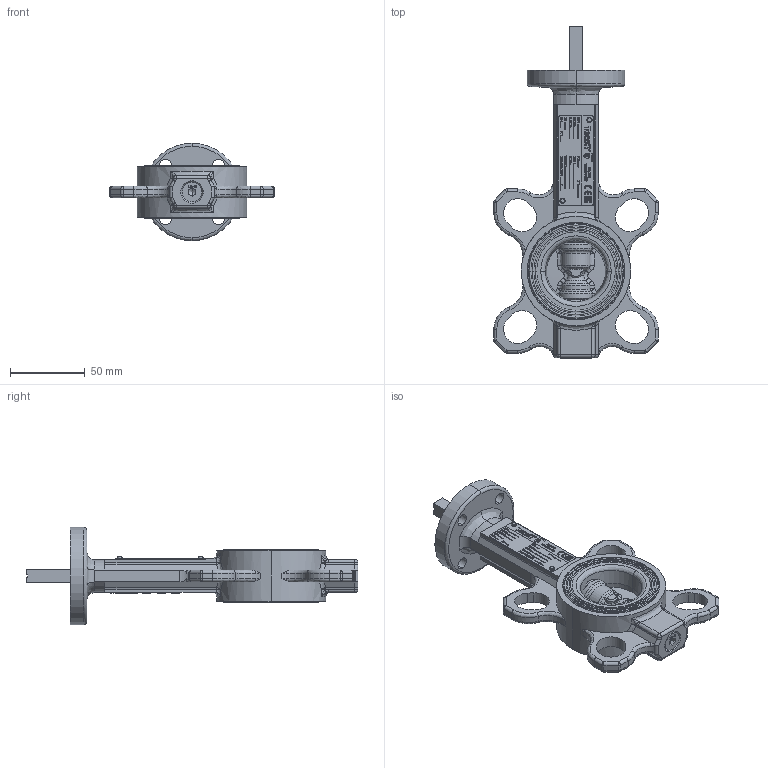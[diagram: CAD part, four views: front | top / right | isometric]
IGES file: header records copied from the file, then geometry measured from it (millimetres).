
Start section: SolidWorks IGES file using NURBS representation for surfaces
Global section: file name: H:\BE BIBLIOTHEQUE 3D\VPN\VPN-00 BARE SHAFT (DN40 à 300)\VPN-00 DN40\VPN-00 DN40.IGS; native system: SolidWorks 2011; preprocessor: SolidWorks 2011; author: a.cartier; date: 140602.134024; units: millimetre
Bounding box: 109.78 x 221.7 x 65 mm (x, y, z)
Volume: 237426.4 mm3; surface area: 87279.6 mm2
Topology: 15 solids, 15 shells, 3287 faces, 8221 edges, 5317 vertices
Faces by surface type: bspline 3287
